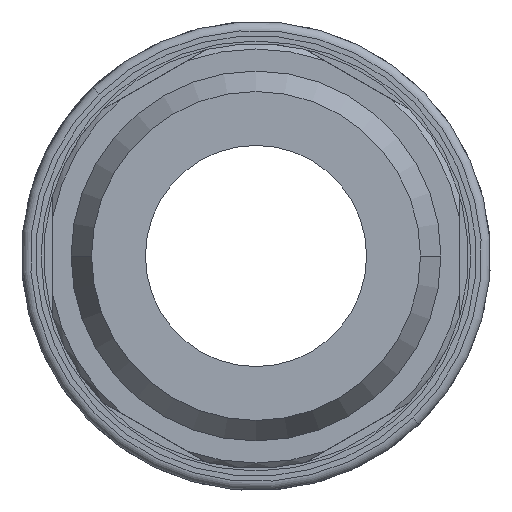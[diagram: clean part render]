
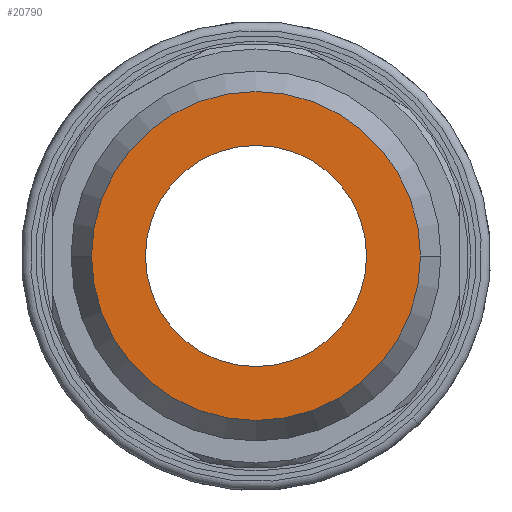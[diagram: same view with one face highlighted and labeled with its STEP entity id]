
A CAD part, front view. The second image highlights one B-rep face of the part: STEP entity #20790.
In plain terms, the highlighted planar face has unit normal (0, -1, 0).
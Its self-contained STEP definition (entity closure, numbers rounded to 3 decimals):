
#476 = FACE_OUTER_BOUND ( 'NONE', #35738, .T. ) ;
#1248 = EDGE_CURVE ( 'NONE', #24462, #29946, #9499, .T. ) ;
#1645 = EDGE_CURVE ( 'NONE', #10651, #16131, #31022, .T. ) ;
#2673 = PLANE ( 'NONE',  #20372 ) ;
#3510 = AXIS2_PLACEMENT_3D ( 'NONE', #33215, #24004, #23749 ) ;
#3821 = ORIENTED_EDGE ( 'NONE', *, *, #1248, .T. ) ;
#5182 = DIRECTION ( 'NONE',  ( 0., 1., 0. ) ) ;
#6574 = FACE_BOUND ( 'NONE', #29645, .T. ) ;
#8024 = DIRECTION ( 'NONE',  ( 0., 1., 0. ) ) ;
#8441 = CARTESIAN_POINT ( 'NONE',  ( 29.97, 0., 0. ) ) ;
#9499 = CIRCLE ( 'NONE', #34051, 6.25 ) ;
#9600 = CARTESIAN_POINT ( 'NONE',  ( 20.675, 0., 0. ) ) ;
#10651 = VERTEX_POINT ( 'NONE', #9600 ) ;
#10981 = CARTESIAN_POINT ( 'NONE',  ( 29.97, 0., 0. ) ) ;
#11064 = DIRECTION ( 'NONE',  ( -1., 0., 0. ) ) ;
#13347 = AXIS2_PLACEMENT_3D ( 'NONE', #10981, #16333, #37237 ) ;
#14710 = ORIENTED_EDGE ( 'NONE', *, *, #27272, .T. ) ;
#16131 = VERTEX_POINT ( 'NONE', #17428 ) ;
#16333 = DIRECTION ( 'NONE',  ( 0., -1., 0. ) ) ;
#17428 = CARTESIAN_POINT ( 'NONE',  ( 39.265, 0., 0. ) ) ;
#18138 = EDGE_CURVE ( 'NONE', #29946, #24462, #31864, .T. ) ;
#20372 = AXIS2_PLACEMENT_3D ( 'NONE', #29604, #32203, #38597 ) ;
#20790 = ADVANCED_FACE ( 'NONE', ( #476, #6574 ), #2673, .F. ) ;
#22814 = CARTESIAN_POINT ( 'NONE',  ( 29.97, 0., 0. ) ) ;
#23080 = DIRECTION ( 'NONE',  ( -1., 0., 0. ) ) ;
#23749 = DIRECTION ( 'NONE',  ( -1., 0., 0. ) ) ;
#24004 = DIRECTION ( 'NONE',  ( 0., -1., 0. ) ) ;
#24028 = ORIENTED_EDGE ( 'NONE', *, *, #1645, .T. ) ;
#24462 = VERTEX_POINT ( 'NONE', #28301 ) ;
#25645 = CARTESIAN_POINT ( 'NONE',  ( 23.72, 0., 0. ) ) ;
#27272 = EDGE_CURVE ( 'NONE', #16131, #10651, #33666, .T. ) ;
#28301 = CARTESIAN_POINT ( 'NONE',  ( 36.22, 0., 0. ) ) ;
#29255 = ORIENTED_EDGE ( 'NONE', *, *, #18138, .T. ) ;
#29604 = CARTESIAN_POINT ( 'NONE',  ( 29.97, 0., 0. ) ) ;
#29645 = EDGE_LOOP ( 'NONE', ( #3821, #29255 ) ) ;
#29946 = VERTEX_POINT ( 'NONE', #25645 ) ;
#31022 = CIRCLE ( 'NONE', #3510, 9.295 ) ;
#31864 = CIRCLE ( 'NONE', #34337, 6.25 ) ;
#32203 = DIRECTION ( 'NONE',  ( 0., 1., 0. ) ) ;
#33215 = CARTESIAN_POINT ( 'NONE',  ( 29.97, 0., 0. ) ) ;
#33666 = CIRCLE ( 'NONE', #13347, 9.295 ) ;
#34051 = AXIS2_PLACEMENT_3D ( 'NONE', #22814, #8024, #23080 ) ;
#34337 = AXIS2_PLACEMENT_3D ( 'NONE', #8441, #5182, #11064 ) ;
#35738 = EDGE_LOOP ( 'NONE', ( #24028, #14710 ) ) ;
#37237 = DIRECTION ( 'NONE',  ( -1., 0., 0. ) ) ;
#38597 = DIRECTION ( 'NONE',  ( -1., 0., 0. ) ) ;
